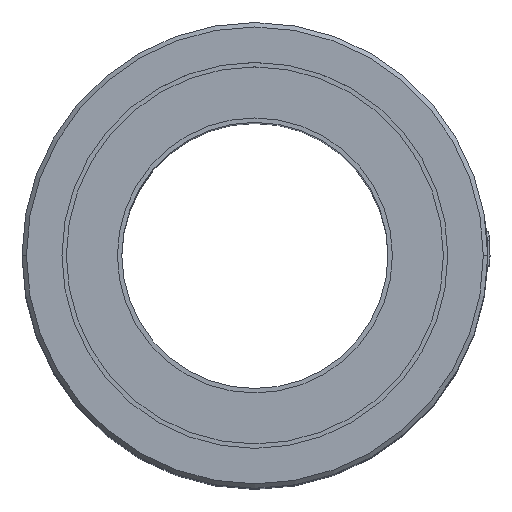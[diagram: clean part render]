
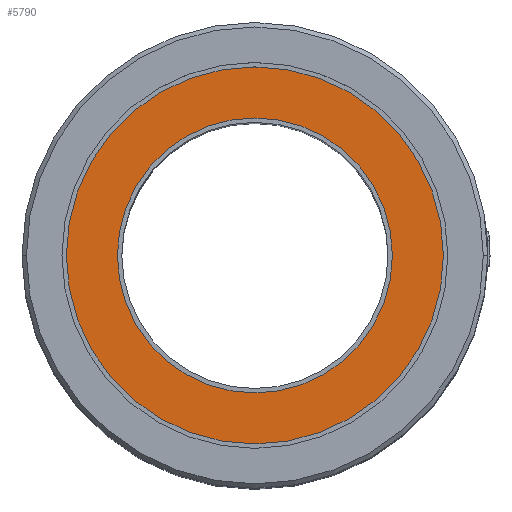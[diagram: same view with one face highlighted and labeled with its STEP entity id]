
A CAD part, top view. The second image highlights one B-rep face of the part: STEP entity #5790.
In plain terms, the highlighted planar face has unit normal (0, 0, 1).
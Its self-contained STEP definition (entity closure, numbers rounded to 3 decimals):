
#13 = EDGE_CURVE ( 'NONE', #5731, #9380, #1380, .T. ) ;
#203 = DIRECTION ( 'NONE',  ( 0., 0., 1. ) ) ;
#1098 = VERTEX_POINT ( 'NONE', #3872 ) ;
#1178 = CIRCLE ( 'NONE', #1508, 6.2 ) ;
#1307 = CIRCLE ( 'NONE', #5255, 8.5 ) ;
#1380 = CIRCLE ( 'NONE', #6080, 6.2 ) ;
#1508 = AXIS2_PLACEMENT_3D ( 'NONE', #6304, #1826, #7044 ) ;
#1515 = CARTESIAN_POINT ( 'NONE',  ( 0., 0., 14.2 ) ) ;
#1729 = ORIENTED_EDGE ( 'NONE', *, *, #4612, .F. ) ;
#1826 = DIRECTION ( 'NONE',  ( 0., 0., 1. ) ) ;
#1894 = AXIS2_PLACEMENT_3D ( 'NONE', #4833, #4131, #9314 ) ;
#2261 = DIRECTION ( 'NONE',  ( 1., 0., 0. ) ) ;
#2298 = FACE_BOUND ( 'NONE', #3532, .T. ) ;
#2533 = FACE_OUTER_BOUND ( 'NONE', #7094, .T. ) ;
#3073 = DIRECTION ( 'NONE',  ( 0., 0., 1. ) ) ;
#3532 = EDGE_LOOP ( 'NONE', ( #1729, #4978 ) ) ;
#3624 = CIRCLE ( 'NONE', #8666, 8.5 ) ;
#3863 = EDGE_CURVE ( 'NONE', #9387, #1098, #1307, .T. ) ;
#3872 = CARTESIAN_POINT ( 'NONE',  ( -8.5, 0., 14.2 ) ) ;
#4131 = DIRECTION ( 'NONE',  ( 0., 0., 1. ) ) ;
#4524 = EDGE_CURVE ( 'NONE', #1098, #9387, #3624, .T. ) ;
#4612 = EDGE_CURVE ( 'NONE', #9380, #5731, #1178, .T. ) ;
#4633 = CARTESIAN_POINT ( 'NONE',  ( 0., 0., 14.2 ) ) ;
#4805 = ORIENTED_EDGE ( 'NONE', *, *, #3863, .T. ) ;
#4833 = CARTESIAN_POINT ( 'NONE',  ( 0., 0., 14.2 ) ) ;
#4978 = ORIENTED_EDGE ( 'NONE', *, *, #13, .F. ) ;
#5255 = AXIS2_PLACEMENT_3D ( 'NONE', #1515, #6735, #2261 ) ;
#5387 = DIRECTION ( 'NONE',  ( 1., 0., 0. ) ) ;
#5731 = VERTEX_POINT ( 'NONE', #6206 ) ;
#5790 = ADVANCED_FACE ( 'NONE', ( #2298, #2533 ), #8556, .T. ) ;
#6080 = AXIS2_PLACEMENT_3D ( 'NONE', #6136, #3073, #6885 ) ;
#6136 = CARTESIAN_POINT ( 'NONE',  ( 0., 0., 14.2 ) ) ;
#6206 = CARTESIAN_POINT ( 'NONE',  ( -6.2, 0., 14.2 ) ) ;
#6304 = CARTESIAN_POINT ( 'NONE',  ( 0., 0., 14.2 ) ) ;
#6735 = DIRECTION ( 'NONE',  ( 0., 0., 1. ) ) ;
#6885 = DIRECTION ( 'NONE',  ( 1., 0., 0. ) ) ;
#7044 = DIRECTION ( 'NONE',  ( 1., 0., 0. ) ) ;
#7094 = EDGE_LOOP ( 'NONE', ( #4805, #8967 ) ) ;
#7456 = CARTESIAN_POINT ( 'NONE',  ( 8.5, 0., 14.2 ) ) ;
#8152 = CARTESIAN_POINT ( 'NONE',  ( 6.2, 0., 14.2 ) ) ;
#8556 = PLANE ( 'NONE',  #1894 ) ;
#8666 = AXIS2_PLACEMENT_3D ( 'NONE', #4633, #203, #5387 ) ;
#8967 = ORIENTED_EDGE ( 'NONE', *, *, #4524, .T. ) ;
#9314 = DIRECTION ( 'NONE',  ( 1., 0., 0. ) ) ;
#9380 = VERTEX_POINT ( 'NONE', #8152 ) ;
#9387 = VERTEX_POINT ( 'NONE', #7456 ) ;
